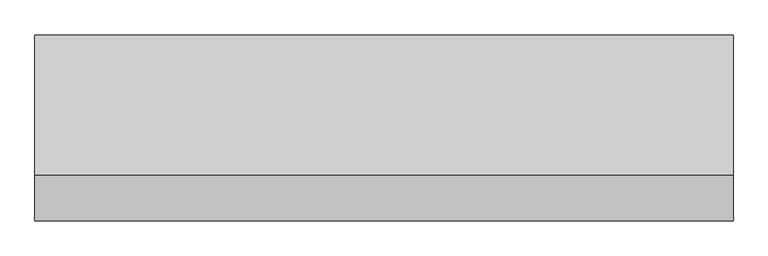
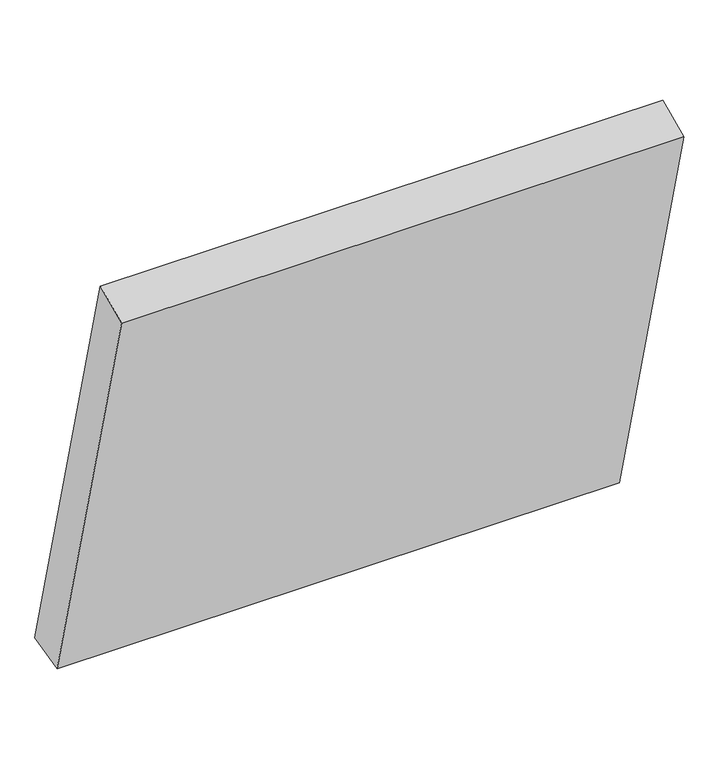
"""IFC4 building model written with IfcOpenShell, lengths in millimetres: proxy geometry, Excavation FamilySP : Excavation FamilySP."""

from ifc_helpers import new_model, si_unit, frame, origin, place, context, project, spatial, polyline, outline, extrude, source, transform, mapped, element, save


def generic_models_04c47b5f(model_context):
    return source(origin(), model_context, "Body", "SweptSolid", [
        extrude(outline(polyline([(-615.3029037, 2384.1345169), (0.0, 0.0), (-208.0635143, -53.6975089), (-814.0077937, 2294.1748369), (-615.3029037, 2384.1345169)])), frame((-1524.0, 0.0, 0.0), z_axis=(1.0, 0.0, 0.0), x_axis=(0.0, 1.0, 0.0)), (0.0, 0.0, 1.0), 3048.0),
    ])


if __name__ == "__main__":
    model = new_model("IFC4")
    model_context = context("Model", 3, world=origin())
    ifc_project = project(units=[si_unit("LENGTHUNIT", "METRE", prefix="MILLI")], contexts=[model_context])
    site = spatial("IfcSite", under=ifc_project)
    building = spatial("IfcBuilding", under=site)
    placement = place(None, origin())
    generic_models_shape = generic_models_04c47b5f(model_context)
    element("IfcBuildingElementProxy", 1, Name="Excavation FamilySP : Excavation FamilySP", ObjectType="Excavation FamilySP : Excavation FamilySP", at=placement, inside=building, context=model_context, shape_type="MappedRepresentation", body=[
        mapped(generic_models_shape, transform((0.0, 0.0, 0.0), x_axis=(1.0, 0.0, 0.0), y_axis=(0.0, 1.0, 0.0), z_axis=(0.0, 0.0, 1.0))),
    ])
    save(model, "model.ifc")
